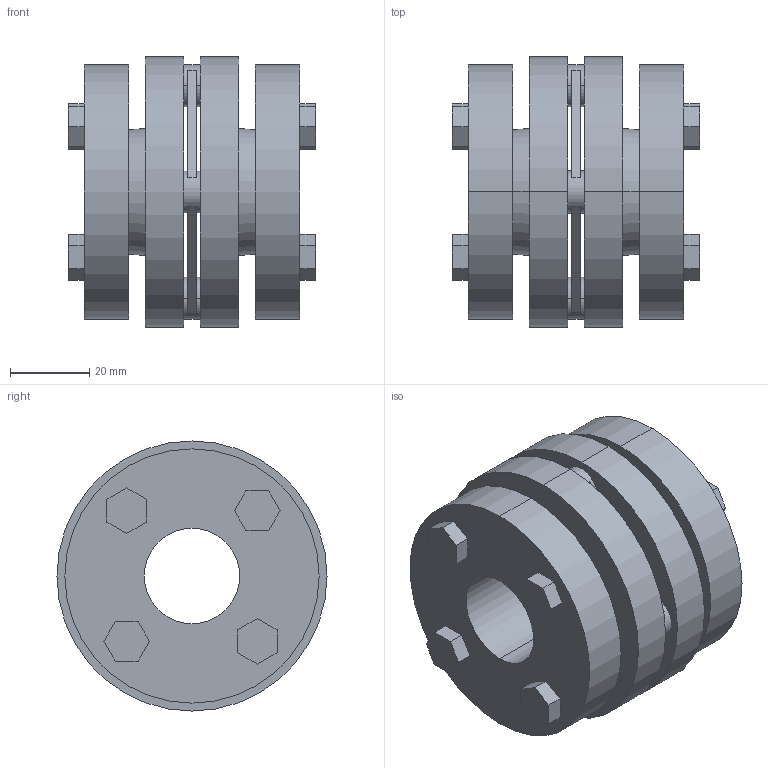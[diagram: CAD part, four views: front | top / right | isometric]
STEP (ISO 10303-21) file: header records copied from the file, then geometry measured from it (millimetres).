
FILE_DESCRIPTION (( 'STEP AP203' ), '1' );
FILE_NAME ('SW-68(D£p24~£p30).STEP', '2009-09-30T15:44:44', ( 'USER' ), ( 'HOME' ), 'SwSTEP 2.0', 'SolidWorks 2007', '' );
FILE_SCHEMA (( 'CONFIG_CONTROL_DESIGN' ));
Length unit declared in the file: millimetre
Products named in the file (1): SW-68(D｣p24~｣p30)
Bounding box: 62.2 x 68 x 68 mm (x, y, z)
Volume: 133203.6 mm3; surface area: 41286.5 mm2
Topology: 9 solids, 9 shells, 108 faces, 270 edges, 180 vertices
Faces by surface type: plane 78, cylinder 26, cone 4
Entity records: 3327 total; most frequent: DIRECTION 564, CARTESIAN_POINT 559, ORIENTED_EDGE 540, EDGE_CURVE 270, VECTOR 194, LINE 194, AXIS2_PLACEMENT_3D 185, VERTEX_POINT 180
